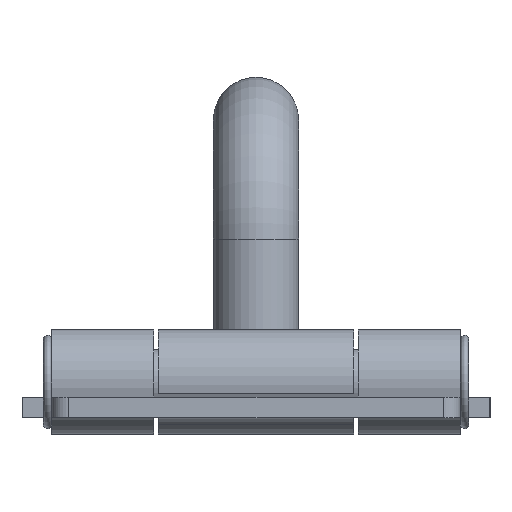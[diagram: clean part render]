
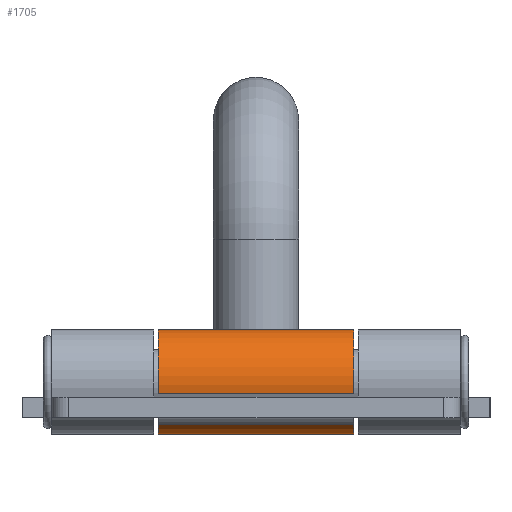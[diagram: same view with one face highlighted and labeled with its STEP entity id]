
A CAD part, left-side view. The second image highlights one B-rep face of the part: STEP entity #1705.
In plain terms, the highlighted cylindrical face has radius 3.1 mm (diameter 6.2 mm), a partial arc.
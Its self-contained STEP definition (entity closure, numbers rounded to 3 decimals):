
#174=FACE_OUTER_BOUND('',#277,.T.);
#277=EDGE_LOOP('',(#1356,#1357,#1358,#1359));
#421=LINE('',#2750,#555);
#424=LINE('',#2755,#558);
#555=VECTOR('',#2224,11.5);
#558=VECTOR('',#2231,11.5);
#668=CIRCLE('',#1847,3.1);
#673=CIRCLE('',#1854,3.1);
#792=VERTEX_POINT('',#2711);
#793=VERTEX_POINT('',#2713);
#802=VERTEX_POINT('',#2734);
#803=VERTEX_POINT('',#2736);
#991=EDGE_CURVE('',#793,#792,#668,.T.);
#1002=EDGE_CURVE('',#803,#802,#673,.T.);
#1009=EDGE_CURVE('',#802,#793,#421,.T.);
#1012=EDGE_CURVE('',#803,#792,#424,.T.);
#1356=ORIENTED_EDGE('',*,*,#991,.T.);
#1357=ORIENTED_EDGE('',*,*,#1012,.F.);
#1358=ORIENTED_EDGE('',*,*,#1002,.T.);
#1359=ORIENTED_EDGE('',*,*,#1009,.T.);
#1635=CYLINDRICAL_SURFACE('',#1859,3.1);
#1705=ADVANCED_FACE('',(#174),#1635,.T.);
#1847=AXIS2_PLACEMENT_3D('',#2714,#2191,#2192);
#1854=AXIS2_PLACEMENT_3D('',#2737,#2211,#2212);
#1859=AXIS2_PLACEMENT_3D('',#2754,#2229,#2230);
#2191=DIRECTION('center_axis',(0.,0.,-1.));
#2192=DIRECTION('ref_axis',(-0.957,-0.29,0.));
#2211=DIRECTION('center_axis',(0.,0.,1.));
#2212=DIRECTION('ref_axis',(-0.957,-0.29,0.));
#2224=DIRECTION('',(0.,0.,1.));
#2229=DIRECTION('center_axis',(0.,0.,1.));
#2230=DIRECTION('ref_axis',(-0.957,-0.29,0.));
#2231=DIRECTION('',(0.,0.,1.));
#2711=CARTESIAN_POINT('',(-1.844,-2.492,5.75));
#2713=CARTESIAN_POINT('',(-3.02,-0.7,5.75));
#2714=CARTESIAN_POINT('Origin',(0.,0.,5.75));
#2734=CARTESIAN_POINT('',(-3.02,-0.7,-5.75));
#2736=CARTESIAN_POINT('',(-1.844,-2.492,-5.75));
#2737=CARTESIAN_POINT('Origin',(0.,0.,-5.75));
#2750=CARTESIAN_POINT('',(-3.02,-0.7,0.));
#2754=CARTESIAN_POINT('Origin',(0.,0.,0.));
#2755=CARTESIAN_POINT('',(-1.844,-2.492,0.));
